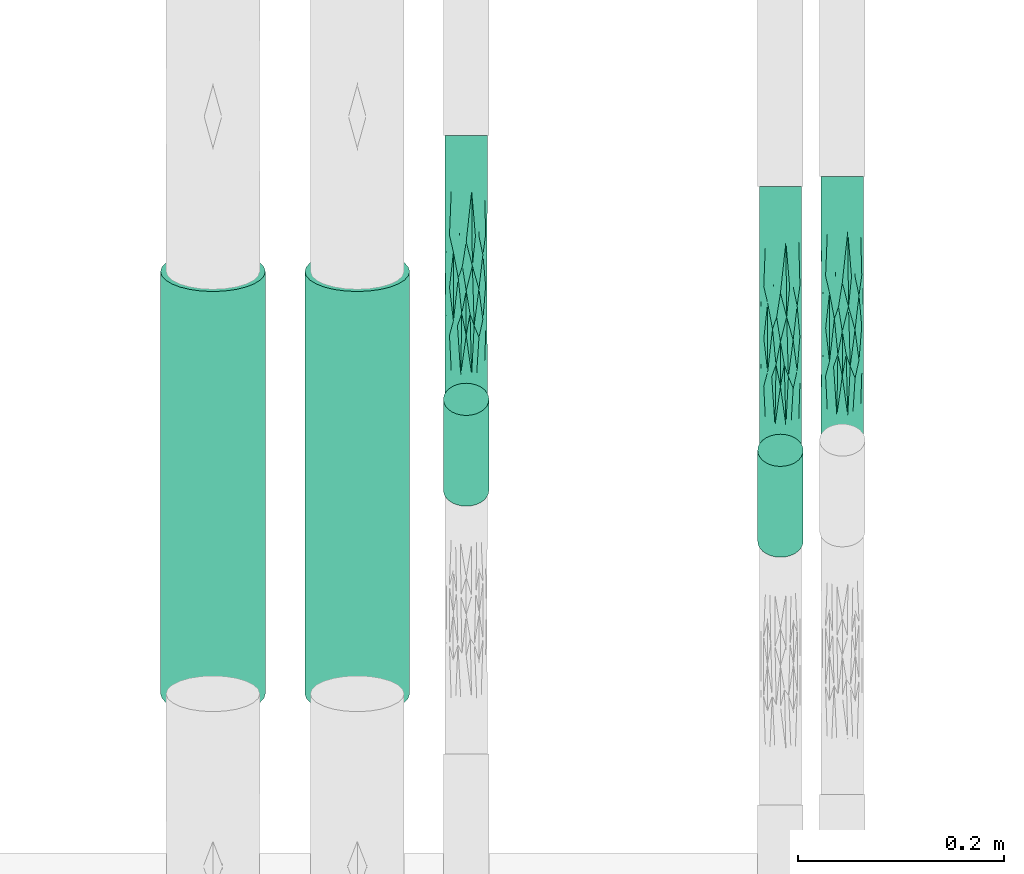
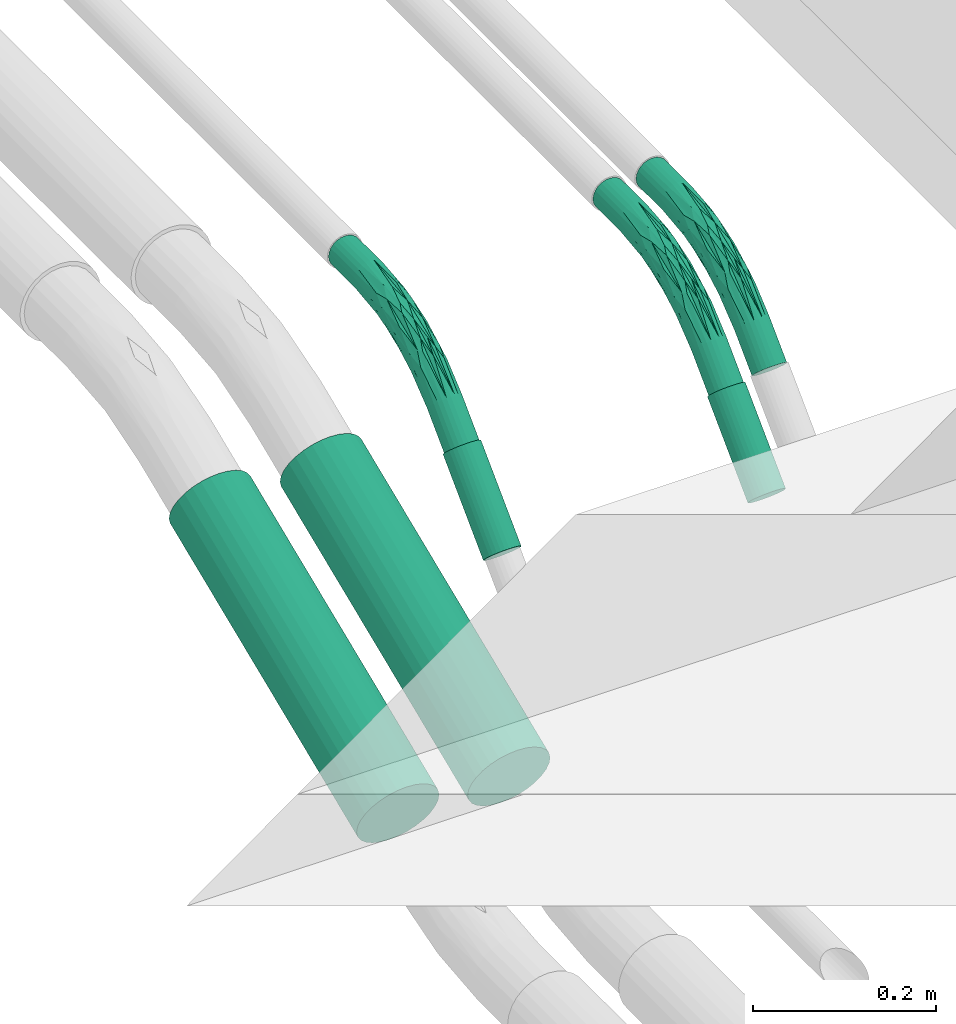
# One storey, part 6 of 18: 4 cable carrier segments, 3 cable carrier fittings.
"""IFC4 building model written with IfcOpenShell, lengths in centimetres."""

from ifc_helpers import new_model, entity, si_unit, converted_unit, derived_unit, direction, frame, origin, place, context, subcontext, project, spatial, arc, indexed_curve, outline, extrude, polygons, source, transform, mapped, material, type_object, type_shapes, element, save


model = new_model("IFC4")

# Units and contexts
model_context = context("Model", 3, precision=0.001, world=origin(), true_north=direction((6.123233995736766e-17, 1.0)))
body_context = subcontext(model_context, "Body", "Model", "MODEL_VIEW")
ifc_project = project(units=[si_unit("LENGTHUNIT", "METRE", prefix="CENTI"), si_unit("AREAUNIT", "SQUARE_METRE"), converted_unit("PLANEANGLEUNIT", "DEGREE", entity("IfcPlaneAngleMeasure", 0.017453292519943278), si_unit("PLANEANGLEUNIT", "RADIAN"), dimensions=[0, 0, 0, 0, 0, 0, 0]), si_unit("VOLUMEUNIT", "CUBIC_METRE"), derived_unit("THERMALTRANSMITTANCEUNIT", [(si_unit("MASSUNIT", "GRAM", prefix="KILO"), 1), (si_unit("THERMODYNAMICTEMPERATUREUNIT", "KELVIN"), -1), (si_unit("TIMEUNIT", "SECOND"), -3)])], contexts=[model_context])

# Site, building, storey
site_placement = place(None, frame((-0.003347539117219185, 0.0, 0.0)))
site = spatial("IfcSite", under=ifc_project, at=site_placement, Name="Default", CompositionType="ELEMENT")
building_placement = place(site_placement, origin())
building = spatial("IfcBuilding", under=site, at=building_placement, CompositionType="ELEMENT")
storey_placement = place(building_placement, frame((0.0, 0.0, -30.0)))
storey = spatial("IfcBuildingStorey", under=building, at=storey_placement, Name="Fondation B.O.", CompositionType="ELEMENT", Elevation=-30.0)

# Cable carrier segments
cable_carrier_segment_type = type_object("IfcCableCarrierSegmentType", Name="Conduit sans raccords:TPC", PredefinedType="CONDUITSEGMENT")
cable_carrier_segment_1_placement = place(storey_placement, origin())
element("IfcCableCarrierSegment", 1, at=cable_carrier_segment_1_placement, inside=storey, type_object=cable_carrier_segment_type, Name="Conduit sans raccords:TPC", ObjectType="Conduit sans raccords:TPC", PredefinedType="CONDUITSEGMENT", context=body_context, shape_type="SweptSolid", body=[
    extrude(outline(indexed_curve([(2.2100000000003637, 0.0), (1.5627059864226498, 1.5627059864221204), (0.0, 2.2099999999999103), (-1.5627059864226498, 1.562705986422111), (-2.2100000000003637, 0.0), (-1.5627059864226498, -1.5627059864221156), (0.0, -2.2099999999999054), (1.5627059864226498, -1.5627059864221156)], segments=[arc(1, 2, 3), arc(3, 4, 5), arc(5, 6, 7), arc(7, 8, 1)], self_intersect=False)), frame((-5729.099445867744, -2607.5933493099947, -30.406012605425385), z_axis=(0.0, 0.7071067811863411, 0.707106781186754), x_axis=(-1.0, 0.0, 0.0)), (0.0, 0.0, 1.0), 12.457989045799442),
])
cable_carrier_segment_2_placement = place(storey_placement, origin())
element("IfcCableCarrierSegment", 2, at=cable_carrier_segment_2_placement, inside=storey, type_object=cable_carrier_segment_type, Name="Conduit sans raccords:TPC", ObjectType="Conduit sans raccords:TPC", PredefinedType="CONDUITSEGMENT", context=body_context, shape_type="SweptSolid", body=[
    extrude(outline(indexed_curve([(2.2099999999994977, 2.5481347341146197e-13), (1.5627059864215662, 1.562705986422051), (5.588381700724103e-13, 2.2100000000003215), (-1.5627059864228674, 1.562705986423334), (-2.21000000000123, 3.5774867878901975e-13), (-1.5627059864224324, -1.562705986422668), (1.173749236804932e-12, -2.209999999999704), (1.562705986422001, -1.5627059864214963)], segments=[arc(1, 2, 3), arc(3, 4, 5), arc(5, 6, 7), arc(7, 8, 1)], self_intersect=False)), frame((-5759.585049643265, -2602.6450985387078, -30.40311592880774), z_axis=(0.0, 0.7071067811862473, 0.7071067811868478), x_axis=(-1.0, 0.0, 0.0)), (0.0, 0.0, 1.0), 12.453892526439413),
])
cable_carrier_segment_3_placement = place(storey_placement, origin())
element("IfcCableCarrierSegment", 3, at=cable_carrier_segment_3_placement, inside=storey, type_object=cable_carrier_segment_type, Name="Conduit sans raccords:TPC", ObjectType="Conduit sans raccords:TPC", PredefinedType="CONDUITSEGMENT", context=body_context, shape_type="SweptSolid", body=[
    extrude(outline(indexed_curve([(5.079999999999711, 0.0), (3.5921024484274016, 3.592102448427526), (0.0, 5.080000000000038), (-3.5921024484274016, 3.5921024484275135), (-5.079999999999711, 1.2505484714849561e-14), (-3.5921024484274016, -3.5921024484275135), (0.0, -5.080000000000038), (3.5921024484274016, -3.592102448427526)], segments=[arc(1, 2, 3), arc(3, 4, 5), arc(5, 6, 7), arc(7, 8, 1)], self_intersect=False)), frame((-5770.152502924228, -2622.3946549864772, -44.48288736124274), z_axis=(0.0, 0.9238795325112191, 0.3826834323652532), x_axis=(-1.0, 0.0, 0.0)), (0.0, 0.0, 1.0), 44.33370584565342),
])
cable_carrier_segment_4_placement = place(storey_placement, origin())
element("IfcCableCarrierSegment", 4, at=cable_carrier_segment_4_placement, inside=storey, type_object=cable_carrier_segment_type, Name="Conduit sans raccords:TPC", ObjectType="Conduit sans raccords:TPC", PredefinedType="CONDUITSEGMENT", context=body_context, shape_type="SweptSolid", body=[
    extrude(outline(indexed_curve([(5.079999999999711, -1.7507678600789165e-13), (3.5921024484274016, 3.592102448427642), (0.0, 5.079999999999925), (-3.5921024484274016, 3.5921024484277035), (-5.079999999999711, -1.2505484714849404e-13), (-3.5921024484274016, -3.5921024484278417), (0.0, -5.080000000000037), (3.5921024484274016, -3.5921024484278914)], segments=[arc(1, 2, 3), arc(3, 4, 5), arc(5, 6, 7), arc(7, 8, 1)], self_intersect=False)), frame((-5784.152502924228, -2622.3946044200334, -44.482866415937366), z_axis=(0.0, 0.9238795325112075, 0.3826834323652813), x_axis=(-1.0, 0.0, 0.0)), (0.0, 0.0, 1.0), 44.33365111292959),
])

# Cable carrier fittings
ifc_material = material(Name="<Unnamed>")
cable_carrier_fitting_type = type_object("IfcCableCarrierFittingType", Name="Courbure de conduit en plastique rigide - Sans raccords:Raccord TPC BT", PredefinedType="NOTDEFINED", material=ifc_material)
shared_shape = source(origin(), body_context, "Body", "Tessellation", [
    polygons([(-14.986257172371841, -2.0500000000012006, -1.936944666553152e-13), (-14.986257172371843, -1.9801479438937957, 0.5305790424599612), (-14.986257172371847, -1.7753520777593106, 1.0249999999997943), (-14.986257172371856, -1.4495689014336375, 1.4495689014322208), (-14.986257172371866, -1.0250000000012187, 1.7753520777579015), (-14.986257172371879, -0.5305790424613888, 1.9801479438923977), (-14.98625717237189, -1.222585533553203e-12, 2.0499999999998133), (-14.986257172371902, 0.5305790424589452, 1.980147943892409), (-14.986257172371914, 1.0249999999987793, 1.7753520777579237), (-14.986257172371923, 1.449568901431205, 1.4495689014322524), (-14.986257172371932, 1.7753520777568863, 1.0249999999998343), (-14.986257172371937, 1.980147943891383, 0.5305790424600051), (-14.986257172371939, 2.0499999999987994, -1.7382326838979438e-13), (-14.986257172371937, 1.9801479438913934, -0.5305790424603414), (-14.986257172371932, 1.775352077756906, -1.0250000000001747), (-14.986257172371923, 1.4495689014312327, -1.449568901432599), (-14.986257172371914, 1.0249999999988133, -1.7753520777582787), (-14.986257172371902, 0.530579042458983, -1.980147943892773), (-14.98625717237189, -1.1851660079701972e-12, -2.0500000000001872), (-14.986257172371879, -0.5305790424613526, -1.9801479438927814), (-14.986257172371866, -1.0250000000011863, -1.7753520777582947), (-14.986257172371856, -1.449568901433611, -1.4495689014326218), (-14.986257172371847, -1.775352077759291, -1.0250000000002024), (-14.986257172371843, -1.980147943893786, -0.5305790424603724), (-9.595257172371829, -2.050000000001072, -1.936944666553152e-13), (-9.595257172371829, -1.9801479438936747, 0.5305790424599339), (-9.595257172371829, -1.775352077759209, 1.0249999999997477), (-9.59525717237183, -1.4495689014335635, 1.4495689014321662), (-9.59525717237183, -1.0250000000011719, 1.7753520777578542), (-9.595257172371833, -0.5305790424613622, 1.9801479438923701), (-9.595257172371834, -1.205083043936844e-12, 2.0499999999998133), (-9.595257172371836, 0.53057904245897, 1.980147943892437), (-9.595257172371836, 1.0249999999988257, 1.7753520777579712), (-9.595257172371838, 1.449568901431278, 1.4495689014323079), (-9.595257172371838, 1.7753520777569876, 1.0249999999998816), (-9.595257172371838, 1.9801479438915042, 0.5305790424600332), (-9.595257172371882, 2.0499999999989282, -1.5925714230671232e-13), (-9.595257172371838, 1.9801479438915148, -0.5305790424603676), (-9.595257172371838, 1.7753520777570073, -1.0250000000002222), (-9.595257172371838, 1.4495689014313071, -1.449568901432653), (-9.595257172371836, 1.0249999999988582, -1.775352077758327), (-9.595257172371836, 0.5305790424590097, -1.9801479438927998), (-9.595257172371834, -1.1640219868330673e-12, -2.0500000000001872), (-9.595257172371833, -0.5305790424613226, -1.9801479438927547), (-9.59525717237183, -1.0250000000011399, -1.7753520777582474), (-9.59525717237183, -1.4495689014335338, -1.4495689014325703), (-9.595257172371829, -1.7753520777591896, -1.0250000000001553), (-9.595257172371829, -1.9801479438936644, -0.5305790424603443), (5.3353025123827, 8.23444031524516, -1.7564403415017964e-13), (2.135608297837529, 5.6085191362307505, -1.7564403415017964e-13), (-1.514896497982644, 3.6572836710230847, -1.7564403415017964e-13), (-5.475925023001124, 2.4557188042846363, -1.7564403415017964e-13), (-4.676054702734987, -1.5655008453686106, -1.9278408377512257e-13), (0.05410557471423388, -0.13062241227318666, -1.9278408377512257e-13), (4.413446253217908, 2.1994937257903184, -1.9278408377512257e-13), (8.234440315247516, 5.335302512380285, -1.9278408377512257e-13), (8.185047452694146, 5.384695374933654, 0.530579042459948), (8.040234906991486, 5.529507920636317, 1.0249999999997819), (7.809871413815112, 5.7598714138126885, 1.4495689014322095), (7.509655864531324, 6.060086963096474, 1.7753520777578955), (7.1600474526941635, 6.409695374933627, 1.9801479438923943), (6.784871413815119, 6.784871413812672, 2.049999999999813), (6.409695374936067, 7.160047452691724, 1.9801479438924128), (6.0600869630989, 7.509655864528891, 1.7753520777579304), (5.759871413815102, 7.809871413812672, 1.449568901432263), (5.529507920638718, 8.040234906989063, 1.0249999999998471), (5.384695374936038, 8.185047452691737, 0.530579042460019), (-0.10367161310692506, 0.25028541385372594, 1.2330496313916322), (-0.42375557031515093, 1.023036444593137, 1.8869118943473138), (-0.8260820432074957, 1.9943384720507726, 2.034693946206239), (-1.34882590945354, 3.256353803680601, 1.2613189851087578), (-3.4146298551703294, 2.903191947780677, 0.525538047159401), (-2.3390473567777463, -0.8887880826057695, 0.6025854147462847), (-3.4263833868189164, -0.4655265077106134, 1.6190374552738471), (1.5037276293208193, 3.717913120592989, 1.8984486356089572), (-3.5914926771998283, 0.5024724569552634, 2.03088400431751), (2.8642046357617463, 2.1600264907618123, 1.6191914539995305), (-3.851737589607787, 2.004374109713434, 1.6333951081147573), (3.4450283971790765, 1.7612266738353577, 0.7738471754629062), (2.421620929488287, 3.0352952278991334, 2.0309571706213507), (1.319345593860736, 4.903018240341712, 0.7941399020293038), (1.8205033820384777, 4.44605516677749, 1.6326748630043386), (-4.413940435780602, 1.382680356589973, 1.8978915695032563), (2.29571018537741, 0.9687458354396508, 0.3733113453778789), (-5.237220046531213, -1.2455176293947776, 1.2412671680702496), (-5.2342834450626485, -1.4605520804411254, 0.896219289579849), (4.583987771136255, 2.8225598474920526, 1.2412671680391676), (-5.412006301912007, -0.42395363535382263, 1.8908253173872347), (4.126646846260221, 3.5270858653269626, 1.8908253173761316), (-5.624080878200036, 0.6066779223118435, 2.0334707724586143), (3.5478396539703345, 4.405811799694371, 2.0334707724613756), (-5.9050969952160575, 1.9402572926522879, 1.2538253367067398), (-3.5827968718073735, 2.689076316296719, 0.9345447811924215), (2.803565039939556, 5.547503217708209, 1.253825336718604), (1.996507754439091, 5.467250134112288, 0.4082971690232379), (5.384695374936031, 8.185047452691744, -0.530579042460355), (5.5295079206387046, 8.040234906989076, -1.0250000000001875), (5.759871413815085, 7.809871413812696, -1.44956890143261), (6.060086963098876, 7.509655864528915, -1.7753520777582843), (6.40969537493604, 7.16004745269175, -1.9801479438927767), (6.784871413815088, 6.7848714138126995, -2.0500000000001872), (7.16004745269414, 6.409695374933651, -1.9801479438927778), (7.5096558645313, 6.060086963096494, -1.7753520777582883), (7.809871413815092, 5.759871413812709, -1.4495689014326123), (8.04023490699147, 5.5295079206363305, -1.025000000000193), (8.18504745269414, 5.384695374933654, -0.5305790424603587), (-0.247234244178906, 0.5968762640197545, -1.6150663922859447), (-0.6211942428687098, 1.4996955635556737, -2.0300422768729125), (-1.0244426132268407, 2.473223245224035, -1.9005495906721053), (-1.3488259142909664, 3.2563537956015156, -1.2613189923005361), (-3.4146300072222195, 2.903191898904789, -0.5255380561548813), (-1.1717457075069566, -0.44242283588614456, -0.7691622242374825), (2.978416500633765, 1.7902780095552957, -1.238342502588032), (2.4818751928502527, 2.470837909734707, -1.8893603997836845), (1.8770621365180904, 3.335443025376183, -2.0339614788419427), (2.293651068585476, 0.9802430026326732, -0.4289681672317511), (1.3062832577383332, 4.140896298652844, -1.633395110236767), (-3.684219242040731, -0.9185438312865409, -1.238835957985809), (-3.698879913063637, -0.05828235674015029, -1.8895129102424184), (-4.0230991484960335, 0.944617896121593, -2.033875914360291), (-4.331099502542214, 1.880867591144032, -1.632798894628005), (1.319345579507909, 4.903018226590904, -0.7941399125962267), (-2.307869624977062, -0.9389201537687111, -0.3694112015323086), (3.4623792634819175, 1.8089172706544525, -0.8473902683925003), (-5.337262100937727, -1.5793580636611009, -0.6535192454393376), (-5.317062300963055, -0.8768377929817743, -1.621320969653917), (4.379748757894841, 3.1397128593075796, -1.6213209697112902), (-5.516415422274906, 0.08210701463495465, -2.0314038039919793), (3.8426363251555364, 3.958753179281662, -2.031403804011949), (-5.7286564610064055, 1.11381627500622, -1.8968849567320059), (3.263184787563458, 4.838358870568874, -1.8968849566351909), (-5.905097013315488, 1.9402572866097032, -1.2538253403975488), (-3.582796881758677, 2.6890763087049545, -0.9345447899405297), (2.8035650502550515, 5.547503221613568, -1.253825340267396), (0.6937690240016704, 4.682722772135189, -0.39399640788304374), (12.046452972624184, 9.147315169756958, -1.9278408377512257e-13), (11.99706011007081, 9.196708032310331, -0.5305790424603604), (11.852247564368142, 9.341520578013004, -1.0250000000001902), (11.62188407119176, 9.571884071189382, -1.4495689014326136), (11.32166852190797, 9.872099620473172, -1.7753520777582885), (10.97206011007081, 10.221708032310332, -1.9801479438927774), (10.596884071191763, 10.59688407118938, -2.0500000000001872), (10.221708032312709, 10.97206011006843, -1.9801479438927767), (9.872099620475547, 11.321668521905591, -1.7753520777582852), (9.571884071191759, 11.621884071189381, -1.4495689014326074), (9.341520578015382, 11.852247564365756, -1.0250000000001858), (9.19670803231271, 11.997060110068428, -0.5305790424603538), (9.147315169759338, 12.0464529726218, -1.6289867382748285e-13), (9.196708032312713, 11.997060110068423, 0.5305790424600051), (9.341520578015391, 11.852247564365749, 1.0249999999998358), (9.571884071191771, 11.621884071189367, 1.4495689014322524), (9.872099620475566, 11.321668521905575, 1.7753520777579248), (10.22170803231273, 10.972060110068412, 1.9801479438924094), (10.596884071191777, 10.596884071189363, 2.0499999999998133), (10.972060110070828, 10.221708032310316, 1.9801479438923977), (11.321668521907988, 9.872099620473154, 1.7753520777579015), (11.621884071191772, 9.57188407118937, 1.4495689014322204), (11.852247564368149, 9.341520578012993, 1.0249999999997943), (11.997060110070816, 9.196708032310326, 0.5305790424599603)], [[[19, 20, 21, 22, 23, 24, 1, 2, 3, 4, 5, 6, 7, 8, 9, 10, 11, 12, 13, 14, 15, 16, 17, 18]], [[2, 1, 25, 26]], [[27, 3, 2, 26]], [[5, 4, 28, 29]], [[27, 28, 4, 3]], [[6, 5, 29, 30]], [[30, 31, 7, 6]], [[9, 8, 32, 33]], [[34, 10, 9, 33]], [[12, 11, 35, 36]], [[34, 35, 11, 10]], [[13, 12, 36, 37]], [[32, 8, 7, 31]], [[14, 13, 37, 38]], [[39, 15, 14, 38]], [[17, 16, 40, 41]], [[39, 40, 16, 15]], [[18, 17, 41, 42]], [[42, 43, 19, 18]], [[21, 20, 44, 45]], [[46, 22, 21, 45]], [[24, 23, 47, 48]], [[46, 47, 23, 22]], [[1, 24, 48, 25]], [[44, 20, 19, 43]], [[60, 61, 89]], [[26, 53, 73]], [[62, 63, 91]], [[85, 28, 27]], [[53, 26, 25]], [[31, 30, 76]], [[29, 88, 30]], [[74, 69, 88]], [[93, 36, 35]], [[90, 32, 31]], [[70, 90, 76]], [[65, 66, 94]], [[75, 78, 83]], [[78, 34, 33]], [[54, 55, 84]], [[35, 34, 92]], [[85, 74, 28]], [[92, 93, 35]], [[71, 92, 78]], [[68, 85, 86]], [[72, 52, 36]], [[52, 72, 51]], [[29, 28, 74]], [[52, 37, 36]], [[26, 73, 86]], [[64, 65, 82]], [[70, 75, 83]], [[68, 87, 77]], [[73, 53, 54]], [[81, 66, 67]], [[60, 77, 59]], [[78, 75, 82]], [[73, 54, 84]], [[70, 76, 80]], [[79, 84, 57]], [[80, 61, 62]], [[94, 81, 71]], [[73, 79, 68]], [[69, 80, 76]], [[74, 77, 69]], [[93, 81, 72]], [[55, 56, 57]], [[82, 65, 94]], [[80, 62, 91]], [[69, 89, 80]], [[51, 72, 95]], [[58, 59, 87]], [[50, 95, 49]], [[88, 76, 30]], [[72, 81, 95]], [[82, 75, 64]], [[71, 78, 82]], [[68, 77, 74]], [[81, 67, 95]], [[83, 33, 32]], [[75, 70, 91]], [[75, 63, 64]], [[77, 60, 89]], [[79, 58, 87]], [[57, 58, 79]], [[83, 32, 90]], [[78, 33, 83]], [[57, 84, 55]], [[73, 84, 79]], [[86, 85, 27]], [[74, 85, 68]], [[26, 86, 27]], [[68, 86, 73]], [[77, 87, 59]], [[79, 87, 68]], [[74, 88, 29]], [[76, 88, 69]], [[80, 89, 61]], [[77, 89, 69]], [[76, 90, 31]], [[83, 90, 70]], [[75, 91, 63]], [[80, 91, 70]], [[78, 92, 34]], [[93, 92, 71]], [[81, 93, 71]], [[93, 72, 36]], [[81, 94, 66]], [[82, 94, 71]], [[49, 95, 67]], [[95, 50, 51]], [[130, 42, 41]], [[113, 118, 107]], [[44, 43, 128]], [[107, 119, 114]], [[41, 40, 121]], [[119, 44, 128]], [[37, 52, 38]], [[51, 50, 135]], [[52, 111, 38]], [[100, 101, 115]], [[39, 132, 40]], [[133, 110, 132]], [[126, 118, 46]], [[43, 42, 120]], [[112, 123, 125]], [[109, 121, 117]], [[53, 25, 48]], [[133, 122, 110]], [[53, 123, 54]], [[134, 122, 97]], [[126, 46, 45]], [[108, 120, 115]], [[111, 133, 38]], [[53, 125, 123]], [[44, 119, 45]], [[118, 112, 125]], [[121, 40, 132]], [[108, 114, 119]], [[111, 52, 51]], [[120, 42, 130]], [[50, 49, 96]], [[113, 104, 105]], [[135, 122, 111]], [[96, 122, 135]], [[102, 103, 114]], [[110, 117, 121]], [[117, 110, 134]], [[98, 99, 117]], [[99, 100, 131]], [[112, 113, 124]], [[106, 55, 116]], [[98, 134, 97]], [[131, 117, 99]], [[131, 115, 109]], [[108, 129, 114]], [[129, 115, 101]], [[113, 107, 127]], [[103, 104, 127]], [[107, 126, 119]], [[101, 102, 129]], [[123, 116, 54]], [[118, 113, 112]], [[56, 55, 106]], [[124, 106, 116]], [[112, 124, 116]], [[54, 116, 55]], [[127, 114, 103]], [[109, 115, 120]], [[108, 128, 120]], [[97, 122, 96]], [[109, 130, 121]], [[47, 46, 118]], [[125, 53, 48]], [[116, 123, 112]], [[113, 105, 124]], [[106, 124, 105]], [[48, 47, 125]], [[118, 125, 47]], [[119, 126, 45]], [[118, 126, 107]], [[113, 127, 104]], [[114, 127, 107]], [[120, 128, 43]], [[119, 128, 108]], [[114, 129, 102]], [[115, 129, 108]], [[121, 130, 41]], [[120, 130, 109]], [[115, 131, 100]], [[117, 131, 109]], [[39, 38, 133]], [[121, 132, 110]], [[39, 133, 132]], [[122, 133, 111]], [[117, 134, 98]], [[122, 134, 110]], [[51, 135, 111]], [[96, 135, 50]], [[146, 147, 148, 149, 150, 151, 152, 153, 154, 155, 156, 157, 158, 159, 136, 137, 138, 139, 140, 141, 142, 143, 144, 145]], [[57, 56, 136, 159]], [[158, 58, 57, 159]], [[60, 59, 157, 156]], [[158, 157, 59, 58]], [[61, 60, 156, 155]], [[155, 154, 62, 61]], [[64, 63, 153, 152]], [[151, 65, 64, 152]], [[67, 66, 150, 149]], [[151, 150, 66, 65]], [[49, 67, 149, 148]], [[153, 63, 62, 154]], [[49, 148, 147, 96]], [[146, 97, 96, 147]], [[144, 143, 100, 99]], [[145, 144, 99, 98]], [[98, 97, 146, 145]], [[143, 142, 101, 100]], [[103, 102, 141, 140]], [[139, 104, 103, 140]], [[106, 105, 138, 137]], [[139, 138, 105, 104]], [[56, 106, 137, 136]], [[141, 102, 101, 142]]], closed=True),
])
type_shapes(cable_carrier_fitting_type, [shared_shape])
for number, where, z_axis, x_axis in (
    (5, (-5723.099445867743, -2587.187336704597, -11.0), (1.0, 0.0, 0.0), (0.0, -1.0, 0.0)),
    (6, (-5729.099445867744, -2588.1873367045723, -11.0), (1.0, 0.0, 0.0), (0.0, -1.0, 0.0)),
    (7, (-5759.585049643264, -2583.2419826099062, -11.0), (1.0, 0.0, 0.0), (0.0, -1.0, 0.0)),
):
    element("IfcCableCarrierFitting", number, at=place(storey_placement, frame(where, z_axis=z_axis, x_axis=x_axis)), inside=storey, type_object=cable_carrier_fitting_type, material=ifc_material, Name="Courbure de conduit en plastique rigide - Sans raccords:Raccord TPC BT", ObjectType="Courbure de conduit en plastique rigide - Sans raccords:Raccord TPC BT", PredefinedType="NOTDEFINED", context=body_context, shape_type="MappedRepresentation", body=[
        mapped(shared_shape, transform((0.0, 0.0, 0.0), scale=1.0)),
    ])

save(model, "model.ifc")
